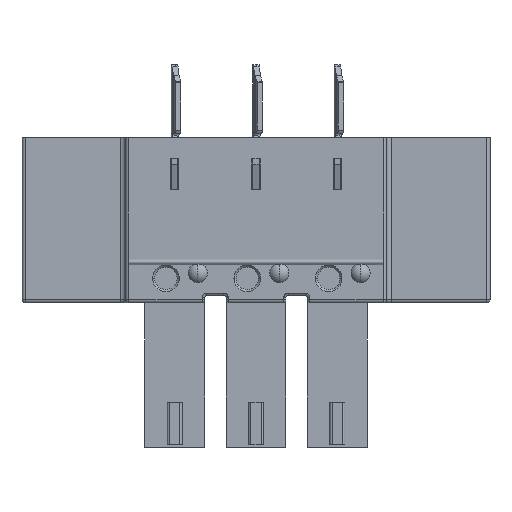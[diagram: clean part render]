
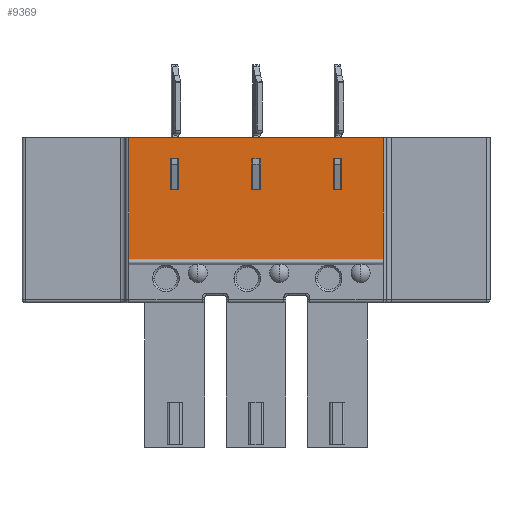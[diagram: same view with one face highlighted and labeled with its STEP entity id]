
A CAD part, front view. The second image highlights one B-rep face of the part: STEP entity #9369.
In plain terms, the highlighted planar face has unit normal (0, -1, 0).
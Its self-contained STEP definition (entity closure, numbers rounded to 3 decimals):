
#177=DIRECTION('',(1.,0.,0.));
#178=VECTOR('',#177,11.92);
#179=CARTESIAN_POINT('',(14.158,0.25,-3.4));
#180=LINE('',#179,#178);
#181=DIRECTION('',(0.,0.,1.));
#182=VECTOR('',#181,1.45);
#183=CARTESIAN_POINT('',(16.508,0.25,-5.85));
#184=LINE('',#183,#182);
#185=DIRECTION('',(-1.,0.,0.));
#186=VECTOR('',#185,0.4);
#187=CARTESIAN_POINT('',(16.508,0.25,-4.4));
#188=LINE('',#187,#186);
#189=DIRECTION('',(0.,0.,-1.));
#190=VECTOR('',#189,1.45);
#191=CARTESIAN_POINT('',(16.108,0.25,-4.4));
#192=LINE('',#191,#190);
#193=DIRECTION('',(1.,0.,0.));
#194=VECTOR('',#193,0.4);
#195=CARTESIAN_POINT('',(16.108,0.25,-5.85));
#196=LINE('',#195,#194);
#197=DIRECTION('',(0.,0.,1.));
#198=VECTOR('',#197,1.45);
#199=CARTESIAN_POINT('',(20.318,0.25,-5.85));
#200=LINE('',#199,#198);
#201=DIRECTION('',(-1.,0.,0.));
#202=VECTOR('',#201,0.4);
#203=CARTESIAN_POINT('',(20.318,0.25,-4.4));
#204=LINE('',#203,#202);
#205=DIRECTION('',(0.,0.,-1.));
#206=VECTOR('',#205,1.45);
#207=CARTESIAN_POINT('',(19.918,0.25,-4.4));
#208=LINE('',#207,#206);
#209=DIRECTION('',(1.,0.,0.));
#210=VECTOR('',#209,0.4);
#211=CARTESIAN_POINT('',(19.918,0.25,-5.85));
#212=LINE('',#211,#210);
#213=DIRECTION('',(0.,0.,1.));
#214=VECTOR('',#213,1.45);
#215=CARTESIAN_POINT('',(24.128,0.25,-5.85));
#216=LINE('',#215,#214);
#217=DIRECTION('',(-1.,0.,0.));
#218=VECTOR('',#217,0.4);
#219=CARTESIAN_POINT('',(24.128,0.25,-4.4));
#220=LINE('',#219,#218);
#221=DIRECTION('',(0.,0.,-1.));
#222=VECTOR('',#221,1.45);
#223=CARTESIAN_POINT('',(23.728,0.25,-4.4));
#224=LINE('',#223,#222);
#225=DIRECTION('',(1.,0.,0.));
#226=VECTOR('',#225,0.4);
#227=CARTESIAN_POINT('',(23.728,0.25,-5.85));
#228=LINE('',#227,#226);
#237=DIRECTION('',(1.,0.,0.));
#238=VECTOR('',#237,11.92);
#239=CARTESIAN_POINT('',(14.158,0.25,-9.105));
#240=LINE('',#239,#238);
#537=DIRECTION('',(0.,0.,1.));
#538=VECTOR('',#537,5.705);
#539=CARTESIAN_POINT('',(26.078,0.25,-9.105));
#540=LINE('',#539,#538);
#4106=DIRECTION('',(0.,0.,-1.));
#4107=VECTOR('',#4106,5.705);
#4108=CARTESIAN_POINT('',(14.158,0.25,-3.4));
#4109=LINE('',#4108,#4107);
#7351=CARTESIAN_POINT('',(14.158,0.25,-3.4));
#7352=CARTESIAN_POINT('',(26.078,0.25,-3.4));
#7353=VERTEX_POINT('',#7351);
#7354=VERTEX_POINT('',#7352);
#7497=CARTESIAN_POINT('',(14.158,0.25,-9.105));
#7498=CARTESIAN_POINT('',(26.078,0.25,-9.105));
#7499=VERTEX_POINT('',#7497);
#7500=VERTEX_POINT('',#7498);
#7501=CARTESIAN_POINT('',(16.508,0.25,-5.85));
#7502=CARTESIAN_POINT('',(16.508,0.25,-4.4));
#7503=VERTEX_POINT('',#7501);
#7504=VERTEX_POINT('',#7502);
#7505=CARTESIAN_POINT('',(16.108,0.25,-4.4));
#7506=VERTEX_POINT('',#7505);
#7507=CARTESIAN_POINT('',(16.108,0.25,-5.85));
#7508=VERTEX_POINT('',#7507);
#7509=CARTESIAN_POINT('',(20.318,0.25,-5.85));
#7510=CARTESIAN_POINT('',(20.318,0.25,-4.4));
#7511=VERTEX_POINT('',#7509);
#7512=VERTEX_POINT('',#7510);
#7513=CARTESIAN_POINT('',(19.918,0.25,-4.4));
#7514=VERTEX_POINT('',#7513);
#7515=CARTESIAN_POINT('',(19.918,0.25,-5.85));
#7516=VERTEX_POINT('',#7515);
#7517=CARTESIAN_POINT('',(24.128,0.25,-5.85));
#7518=CARTESIAN_POINT('',(24.128,0.25,-4.4));
#7519=VERTEX_POINT('',#7517);
#7520=VERTEX_POINT('',#7518);
#7521=CARTESIAN_POINT('',(23.728,0.25,-4.4));
#7522=VERTEX_POINT('',#7521);
#7523=CARTESIAN_POINT('',(23.728,0.25,-5.85));
#7524=VERTEX_POINT('',#7523);
#9325=CARTESIAN_POINT('',(31.078,0.25,-3.4));
#9326=DIRECTION('',(0.,-1.,0.));
#9327=DIRECTION('',(0.,0.,-1.));
#9328=AXIS2_PLACEMENT_3D('',#9325,#9326,#9327);
#9329=PLANE('',#9328);
#9331=ORIENTED_EDGE('',*,*,#9330,.F.);
#9333=ORIENTED_EDGE('',*,*,#9332,.F.);
#9334=ORIENTED_EDGE('',*,*,#9168,.T.);
#9336=ORIENTED_EDGE('',*,*,#9335,.F.);
#9337=EDGE_LOOP('',(#9331,#9333,#9334,#9336));
#9338=FACE_OUTER_BOUND('',#9337,.F.);
#9340=ORIENTED_EDGE('',*,*,#9339,.T.);
#9342=ORIENTED_EDGE('',*,*,#9341,.T.);
#9344=ORIENTED_EDGE('',*,*,#9343,.T.);
#9346=ORIENTED_EDGE('',*,*,#9345,.T.);
#9347=EDGE_LOOP('',(#9340,#9342,#9344,#9346));
#9348=FACE_BOUND('',#9347,.F.);
#9350=ORIENTED_EDGE('',*,*,#9349,.T.);
#9352=ORIENTED_EDGE('',*,*,#9351,.T.);
#9354=ORIENTED_EDGE('',*,*,#9353,.T.);
#9356=ORIENTED_EDGE('',*,*,#9355,.T.);
#9357=EDGE_LOOP('',(#9350,#9352,#9354,#9356));
#9358=FACE_BOUND('',#9357,.F.);
#9360=ORIENTED_EDGE('',*,*,#9359,.T.);
#9362=ORIENTED_EDGE('',*,*,#9361,.T.);
#9364=ORIENTED_EDGE('',*,*,#9363,.T.);
#9366=ORIENTED_EDGE('',*,*,#9365,.T.);
#9367=EDGE_LOOP('',(#9360,#9362,#9364,#9366));
#9368=FACE_BOUND('',#9367,.F.);
#9369=ADVANCED_FACE('',(#9338,#9348,#9358,#9368),#9329,.T.);
#9168=EDGE_CURVE('',#7353,#7354,#180,.T.);
#9330=EDGE_CURVE('',#7499,#7500,#240,.T.);
#9332=EDGE_CURVE('',#7353,#7499,#4109,.T.);
#9335=EDGE_CURVE('',#7500,#7354,#540,.T.);
#9339=EDGE_CURVE('',#7503,#7504,#184,.T.);
#9341=EDGE_CURVE('',#7504,#7506,#188,.T.);
#9343=EDGE_CURVE('',#7506,#7508,#192,.T.);
#9345=EDGE_CURVE('',#7508,#7503,#196,.T.);
#9349=EDGE_CURVE('',#7511,#7512,#200,.T.);
#9351=EDGE_CURVE('',#7512,#7514,#204,.T.);
#9353=EDGE_CURVE('',#7514,#7516,#208,.T.);
#9355=EDGE_CURVE('',#7516,#7511,#212,.T.);
#9359=EDGE_CURVE('',#7519,#7520,#216,.T.);
#9361=EDGE_CURVE('',#7520,#7522,#220,.T.);
#9363=EDGE_CURVE('',#7522,#7524,#224,.T.);
#9365=EDGE_CURVE('',#7524,#7519,#228,.T.);
